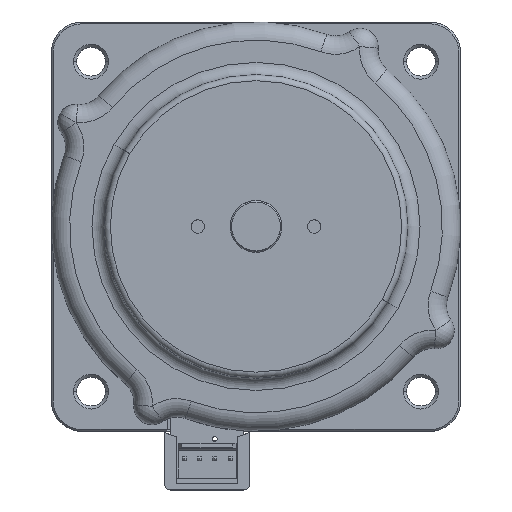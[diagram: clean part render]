
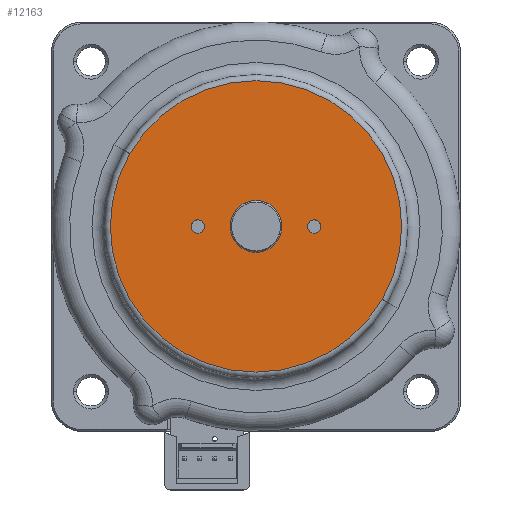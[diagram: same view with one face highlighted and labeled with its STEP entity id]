
A CAD part, top view. The second image highlights one B-rep face of the part: STEP entity #12163.
In plain terms, the highlighted planar face has unit normal (0, 0, 1).
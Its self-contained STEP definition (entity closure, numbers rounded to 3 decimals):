
#288 = CIRCLE ( 'NONE', #2982, 4.25 ) ;
#445 = CIRCLE ( 'NONE', #3056, 1.1 ) ;
#639 = VERTEX_POINT ( 'NONE', #4271 ) ;
#718 = EDGE_LOOP ( 'NONE', ( #6157, #6480 ) ) ;
#833 = VERTEX_POINT ( 'NONE', #4301 ) ;
#856 = VERTEX_POINT ( 'NONE', #4232 ) ;
#960 = VERTEX_POINT ( 'NONE', #4354 ) ;
#1187 = VERTEX_POINT ( 'NONE', #12825 ) ;
#1374 = VERTEX_POINT ( 'NONE', #12791 ) ;
#1625 = VERTEX_POINT ( 'NONE', #1956 ) ;
#1768 = VERTEX_POINT ( 'NONE', #2034 ) ;
#1956 = CARTESIAN_POINT ( 'NONE',  ( -19.143, -6.133, 23.55 ) ) ;
#2034 = CARTESIAN_POINT ( 'NONE',  ( -1.999, -5.033, 23.55 ) ) ;
#2303 = CARTESIAN_POINT ( 'NONE',  ( -20.096, -5.583, 23.55 ) ) ;
#2304 = DIRECTION ( 'NONE',  ( 0., 0., -1. ) ) ;
#2305 = DIRECTION ( 'NONE',  ( -0.866, 0.5, 0. ) ) ;
#2352 = CARTESIAN_POINT ( 'NONE',  ( -10.571, -5.583, 23.55 ) ) ;
#2353 = DIRECTION ( 'NONE',  ( 0., 0., 1. ) ) ;
#2354 = DIRECTION ( 'NONE',  ( -0.866, 0.5, 0. ) ) ;
#2361 = CARTESIAN_POINT ( 'NONE',  ( -1.046, -5.583, 23.55 ) ) ;
#2362 = DIRECTION ( 'NONE',  ( 0., 0., -1. ) ) ;
#2363 = DIRECTION ( 'NONE',  ( -0.866, 0.5, 0. ) ) ;
#2982 = AXIS2_PLACEMENT_3D ( 'NONE', #9292, #9293, #9294 ) ;
#3056 = AXIS2_PLACEMENT_3D ( 'NONE', #7935, #7936, #7937 ) ;
#3351 = AXIS2_PLACEMENT_3D ( 'NONE', #3939, #3940, #3941 ) ;
#3356 = AXIS2_PLACEMENT_3D ( 'NONE', #6754, #6755, #6756 ) ;
#3939 = CARTESIAN_POINT ( 'NONE',  ( -10.571, -5.583, 23.55 ) ) ;
#3940 = DIRECTION ( 'NONE',  ( 0., 0., 1. ) ) ;
#3941 = DIRECTION ( 'NONE',  ( -0.866, 0.5, 0. ) ) ;
#3989 = EDGE_CURVE ( 'NONE', #639, #960, #13575, .T. ) ;
#4002 = EDGE_CURVE ( 'NONE', #1187, #856, #13424, .T. ) ;
#4232 = CARTESIAN_POINT ( 'NONE',  ( -6.891, -7.708, 23.55 ) ) ;
#4271 = CARTESIAN_POINT ( 'NONE',  ( 10.084, -17.508, 23.55 ) ) ;
#4301 = CARTESIAN_POINT ( 'NONE',  ( -21.049, -5.033, 23.55 ) ) ;
#4354 = CARTESIAN_POINT ( 'NONE',  ( -31.226, 6.342, 23.55 ) ) ;
#5819 = ORIENTED_EDGE ( 'NONE', *, *, #14639, .T. ) ;
#5869 = ORIENTED_EDGE ( 'NONE', *, *, #4002, .F. ) ;
#5933 = ORIENTED_EDGE ( 'NONE', *, *, #10460, .F. ) ;
#5953 = ORIENTED_EDGE ( 'NONE', *, *, #10631, .T. ) ;
#5996 = EDGE_LOOP ( 'NONE', ( #5933, #5869 ) ) ;
#6157 = ORIENTED_EDGE ( 'NONE', *, *, #14634, .T. ) ;
#6198 = EDGE_LOOP ( 'NONE', ( #6393, #6581 ) ) ;
#6347 = EDGE_LOOP ( 'NONE', ( #5819, #5953 ) ) ;
#6393 = ORIENTED_EDGE ( 'NONE', *, *, #12719, .T. ) ;
#6480 = ORIENTED_EDGE ( 'NONE', *, *, #3989, .T. ) ;
#6581 = ORIENTED_EDGE ( 'NONE', *, *, #14615, .T. ) ;
#6754 = CARTESIAN_POINT ( 'NONE',  ( -10.571, -5.583, 23.55 ) ) ;
#6755 = DIRECTION ( 'NONE',  ( 0., 0., 1. ) ) ;
#6756 = DIRECTION ( 'NONE',  ( -0.866, 0.5, 0. ) ) ;
#6870 = CIRCLE ( 'NONE', #9005, 1.1 ) ;
#7360 = CIRCLE ( 'NONE', #9136, 1.1 ) ;
#7383 = CIRCLE ( 'NONE', #9145, 23.85 ) ;
#7397 = CIRCLE ( 'NONE', #9146, 1.1 ) ;
#7935 = CARTESIAN_POINT ( 'NONE',  ( -1.046, -5.583, 23.55 ) ) ;
#7936 = DIRECTION ( 'NONE',  ( 0., 0., -1. ) ) ;
#7937 = DIRECTION ( 'NONE',  ( -0.866, 0.5, 0. ) ) ;
#9005 = AXIS2_PLACEMENT_3D ( 'NONE', #11489, #11490, #11491 ) ;
#9136 = AXIS2_PLACEMENT_3D ( 'NONE', #2303, #2304, #2305 ) ;
#9145 = AXIS2_PLACEMENT_3D ( 'NONE', #2352, #2353, #2354 ) ;
#9146 = AXIS2_PLACEMENT_3D ( 'NONE', #2361, #2362, #2363 ) ;
#9292 = CARTESIAN_POINT ( 'NONE',  ( -10.571, -5.583, 23.55 ) ) ;
#9293 = DIRECTION ( 'NONE',  ( 0., 0., 1. ) ) ;
#9294 = DIRECTION ( 'NONE',  ( -0.866, 0.5, 0. ) ) ;
#9703 = PLANE ( 'NONE',  #10278 ) ;
#9712 = CARTESIAN_POINT ( 'NONE',  ( -10.571, -5.583, 23.55 ) ) ;
#9713 = DIRECTION ( 'NONE',  ( 0., 0., 1. ) ) ;
#9714 = DIRECTION ( 'NONE',  ( -0.866, 0.5, 0. ) ) ;
#10278 = AXIS2_PLACEMENT_3D ( 'NONE', #9712, #9713, #9714 ) ;
#10460 = EDGE_CURVE ( 'NONE', #856, #1187, #288, .T. ) ;
#10631 = EDGE_CURVE ( 'NONE', #1768, #1374, #445, .T. ) ;
#11489 = CARTESIAN_POINT ( 'NONE',  ( -20.096, -5.583, 23.55 ) ) ;
#11490 = DIRECTION ( 'NONE',  ( 0., 0., -1. ) ) ;
#11491 = DIRECTION ( 'NONE',  ( -0.866, 0.5, 0. ) ) ;
#12163 = ADVANCED_FACE ( 'NONE', ( #12288, #12292, #12289, #12287 ), #9703, .T. ) ;
#12287 = FACE_BOUND ( 'NONE', #6347, .T. ) ;
#12288 = FACE_BOUND ( 'NONE', #6198, .T. ) ;
#12289 = FACE_OUTER_BOUND ( 'NONE', #718, .T. ) ;
#12292 = FACE_BOUND ( 'NONE', #5996, .T. ) ;
#12719 = EDGE_CURVE ( 'NONE', #1625, #833, #6870, .T. ) ;
#12791 = CARTESIAN_POINT ( 'NONE',  ( -0.093, -6.133, 23.55 ) ) ;
#12825 = CARTESIAN_POINT ( 'NONE',  ( -14.252, -3.458, 23.55 ) ) ;
#13424 = CIRCLE ( 'NONE', #3356, 4.25 ) ;
#13575 = CIRCLE ( 'NONE', #3351, 23.85 ) ;
#14615 = EDGE_CURVE ( 'NONE', #833, #1625, #7360, .T. ) ;
#14634 = EDGE_CURVE ( 'NONE', #960, #639, #7383, .T. ) ;
#14639 = EDGE_CURVE ( 'NONE', #1374, #1768, #7397, .T. ) ;
